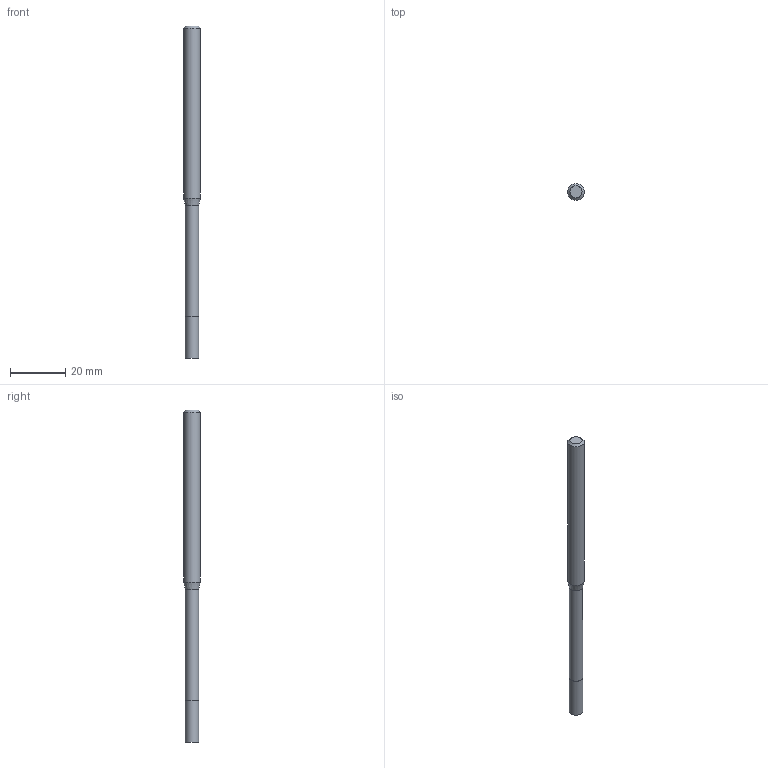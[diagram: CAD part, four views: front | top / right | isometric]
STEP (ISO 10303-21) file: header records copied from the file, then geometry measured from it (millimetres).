
FILE_DESCRIPTION((''),'2;1');
FILE_NAME('C:\Users\nsx150\Desktop\RSE230_20210427\01-00644-05055 RSE230 D5X15X55.step','2021-05-07T14:54:24',(''),(''),'STEP Write','Mastercam 2021 ... CNC Software, Inc.','');
FILE_SCHEMA(('AUTOMOTIVE_DESIGN'));
Length unit declared in the file: millimetre
Products named in the file (1): None
Bounding box: 6 x 6 x 120 mm (x, y, z)
Volume: 2835.8 mm3; surface area: 2135.7 mm2
Topology: 2 solids, 2 shells, 9 faces, 12 edges, 7 vertices
Faces by surface type: plane 4, cylinder 3, cone 2
Full cylindrical faces by diameter (mm): 4.8 x1, 5 x1, 6 x1
Entity records: 211 total; most frequent: DIRECTION 36, CARTESIAN_POINT 25, AXIS2_PLACEMENT_3D 18, ORIENTED_EDGE 14, EDGE_LOOP 14, STYLED_ITEM 12, ADVANCED_FACE 9, FACE_BOUND 8
